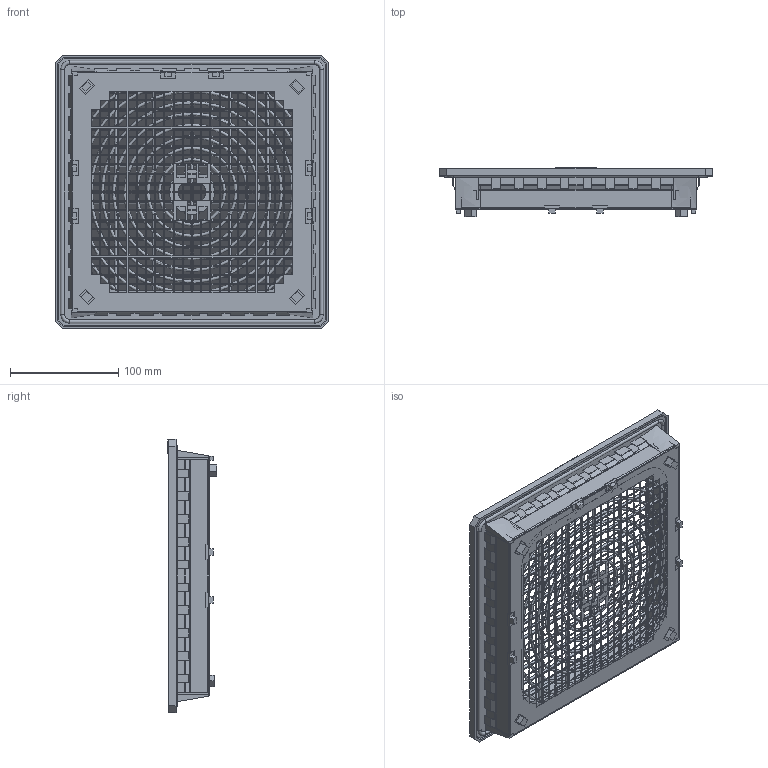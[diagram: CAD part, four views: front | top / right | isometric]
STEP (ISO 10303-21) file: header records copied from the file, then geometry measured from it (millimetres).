
FILE_DESCRIPTION (( 'STEP AP203' ), '1' );
FILE_NAME ('PFA 40EMV_PDG.STEP', '2021-11-24T12:10:05', ( '' ), ( '' ), 'SwSTEP 2.0', 'SolidWorks 2021', '' );
FILE_SCHEMA (( 'CONFIG_CONTROL_DESIGN' ));
Products named in the file (1): PFA 40EMV_PDG
Bounding box: 252 x 45.5 x 252 mm (x, y, z)
Surface area: 377542.6 mm2 (no closed solid volume)
Topology: 0 solids, 12 shells, 3048 faces, 10037 edges, 6752 vertices
Faces by surface type: plane 2417, cylinder 446, torus 160, bspline 25
Entity records: 122036 total; most frequent: CARTESIAN_POINT 35448, ORIENTED_EDGE 18456, DIRECTION 15398, EDGE_CURVE 10037, LINE 7918, VECTOR 7918, VERTEX_POINT 6752, EDGE_LOOP 4062
